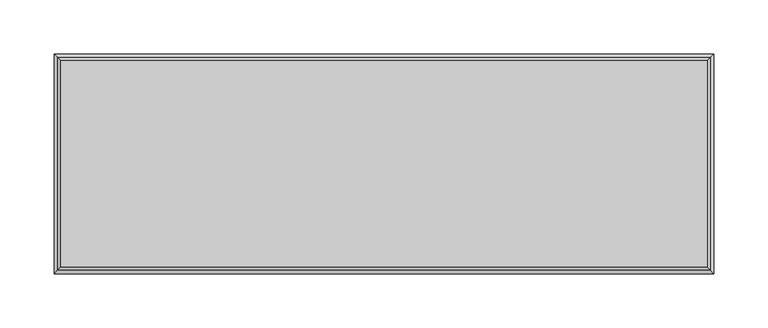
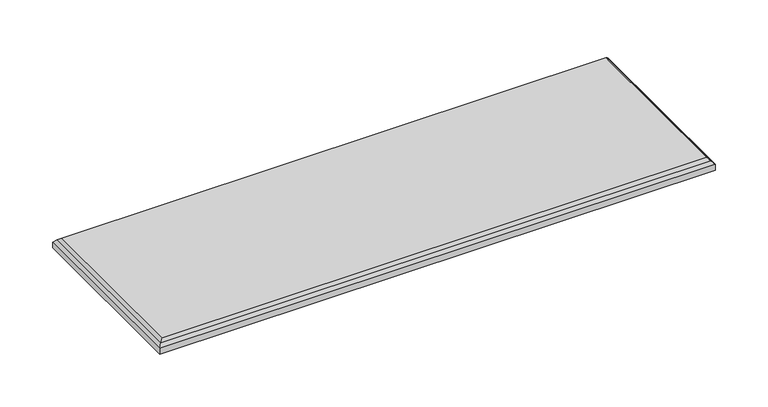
"""IFC4 building model written with IfcOpenShell, lengths in millimetres: proxy geometry, FilzFelt_Rectangle A_Block : Chamfered Edge = 2’-0” x 8” (61 x 20.3 cm)."""

from ifc_helpers import new_model, si_unit, origin, place, context, project, spatial, faceted_brep, source, transform, mapped, element, save


def specialty_equipment_352826ec(model_context):
    return source(origin(), model_context, "Body", "Brep", [
        faceted_brep([(301.4265625, 98.2265625, 10.0210937), (301.4265625, -98.2265625, 10.0210937), (-301.4265625, -98.2265625, 10.0210937), (-301.4265625, 98.2265625, 10.0210937), (298.45, -95.25, 12.9976563), (298.45, 95.25, 12.9976563), (-298.45, 95.25, 12.9976563), (-298.45, -95.25, 12.9976563)], [[[0, 1, 2, 3]], [[4, 5, 6, 7]], [[4, 1, 0, 5]], [[1, 4, 7, 2]], [[2, 7, 6, 3]], [[3, 6, 5, 0]]]),
        faceted_brep([(-304.8, -101.6, 0.0), (-304.8, 101.6, 0.0), (304.8, 101.6, 0.0), (304.8, -101.6, 0.0), (301.4265625, -98.2265625, 10.0210937), (301.4265625, 98.2265625, 10.0210937), (-301.4265625, 98.2265625, 10.0210937), (-301.4265625, -98.2265625, 10.0210937), (-304.8, -101.6, 6.6476563), (-304.8, 101.6, 6.6476563), (304.8, -101.6, 6.6476563), (304.8, 101.6, 6.6476563)], [[[0, 1, 2, 3]], [[4, 5, 6, 7]], [[1, 0, 8, 9]], [[0, 3, 10, 8]], [[2, 1, 9, 11]], [[3, 2, 11, 10]], [[4, 10, 11, 5]], [[10, 4, 7, 8]], [[8, 7, 6, 9]], [[9, 6, 5, 11]]]),
    ])


if __name__ == "__main__":
    model = new_model("IFC4")
    model_context = context("Model", 3, world=origin())
    ifc_project = project(units=[si_unit("LENGTHUNIT", "METRE", prefix="MILLI")], contexts=[model_context])
    site = spatial("IfcSite", under=ifc_project)
    building = spatial("IfcBuilding", under=site)
    placement = place(None, origin())
    specialty_equipment_shape = specialty_equipment_352826ec(model_context)
    element("IfcBuildingElementProxy", 1, Name="FilzFelt_Rectangle A_Block : Chamfered Edge = 2’-0” x 8” (61 x 20.3 cm)", ObjectType="FilzFelt_Rectangle A_Block : Chamfered Edge = 2’-0” x 8” (61 x 20.3 cm)", at=placement, inside=building, context=model_context, shape_type="MappedRepresentation", body=[
        mapped(specialty_equipment_shape, transform((0.0, 0.0, 0.0), x_axis=(1.0, 0.0, 0.0), y_axis=(0.0, 1.0, 0.0), z_axis=(0.0, 0.0, 1.0))),
    ])
    save(model, "model.ifc")
